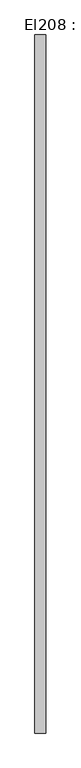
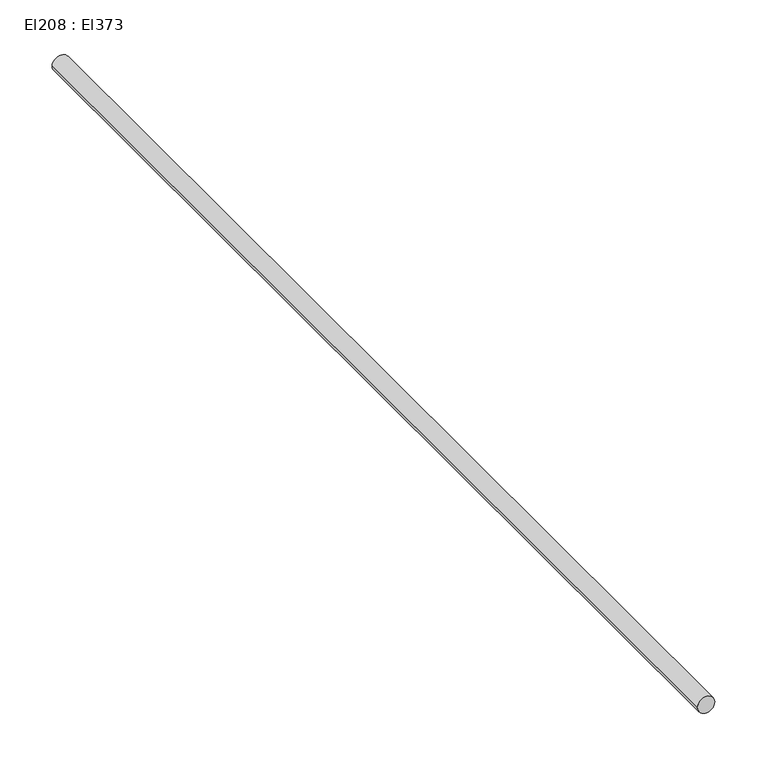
"""IFC4 building model written with IfcOpenShell, lengths in millimetres: cable carrier segment geometry, El208 : El373."""

import ifcopenshell
import ifcopenshell.guid

model = None  # the IFC model being written
_history = None  # IfcOwnerHistory: only IFC2X3 demands one
_inside = {}  # id of a spatial element -> (the spatial element, [elements in it])
_under = {}  # id of a project, library or spatial element -> (it, [spatial elements below it])
_declared = {}  # id of a project -> (the project, [libraries it declares])
_typed = {}  # id of a type object -> (the type object, [elements of that type])
_made_of = {}  # id of a material, layer set ... -> (it, [elements and type objects made of it])


def new_model(schema):
    """Start an empty IFC model of exactly this schema.

    Asked for "IFC4X3", IfcOpenShell would pick the latest addendum, in which some entities
    have other attributes; the version numbers below select the first issue.
    IFC2X3 requires an IfcOwnerHistory on every rooted entity: one is made here for all.
    """
    global model, _history
    if schema == "IFC4X3":
        model = ifcopenshell.file(schema_version=(4, 3, 0, 0))
    else:
        model = ifcopenshell.file(schema=schema)
    _inside.clear()
    _under.clear()
    _declared.clear()
    _typed.clear()
    _made_of.clear()
    _history = None
    if model.schema == "IFC2X3":
        org = make("IfcOrganization", Name="unknown")
        user = make(
            "IfcPersonAndOrganization",
            ThePerson=make("IfcPerson", FamilyName="unknown"),
            TheOrganization=org,
        )
        app = make(
            "IfcApplication",
            ApplicationDeveloper=org,
            Version="unknown",
            ApplicationFullName="unknown",
            ApplicationIdentifier="unknown",
        )
        _history = make(
            "IfcOwnerHistory",
            OwningUser=user,
            OwningApplication=app,
            ChangeAction="ADDED",
            CreationDate=0,
        )
    return model


def make(cls, **values):
    """One entity of the class cls with the attributes given. An attribute that is None is left unset."""
    return model.create_entity(
        cls, **{name: value for name, value in values.items() if value is not None}
    )


def rooted(cls, **values):
    """An entity with a GlobalId (a new one), such as an element, a storey or a relation."""
    return make(cls, GlobalId=ifcopenshell.guid.new(), OwnerHistory=_history, **values)


def si_unit(unit_type, name, prefix=None):
    """IfcSIUnit, for example si_unit("LENGTHUNIT", "METRE", prefix="MILLI")."""
    return make("IfcSIUnit", UnitType=unit_type, Prefix=prefix, Name=name)


def assignment(units):
    """IfcUnitAssignment: the units of a project."""
    return None if units is None else make("IfcUnitAssignment", Units=units)


def point(xyz):
    """IfcCartesianPoint."""
    return None if xyz is None else make("IfcCartesianPoint", Coordinates=xyz)


def direction(xyz):
    """IfcDirection."""
    return None if xyz is None else make("IfcDirection", DirectionRatios=xyz)


def frame(location, z_axis=None, x_axis=None):
    """IfcAxis2Placement3D, a coordinate frame: its origin and axes. An axis left out is left unset."""
    return make(
        "IfcAxis2Placement3D",
        Location=point(location),
        Axis=direction(z_axis),
        RefDirection=direction(x_axis),
    )


def frame_2d(location, x_axis=None):
    """IfcAxis2Placement2D, a coordinate frame in the plane: its origin and x axis."""
    return make(
        "IfcAxis2Placement2D", Location=point(location), RefDirection=direction(x_axis)
    )


def origin():
    """The frame at (0, 0, 0) with its axes left unset."""
    return frame((0.0, 0.0, 0.0))


def place(relative_to, where):
    """IfcLocalPlacement: puts the frame where relative to a parent placement (None: the world)."""
    return make(
        "IfcLocalPlacement", PlacementRelTo=relative_to, RelativePlacement=where
    )


def context(
    kind, dimensions, precision=None, world=None, true_north=None, identifier=None
):
    """IfcGeometricRepresentationContext, for example the 3D "Model" context."""
    return make(
        "IfcGeometricRepresentationContext",
        ContextIdentifier=identifier,
        ContextType=kind,
        CoordinateSpaceDimension=dimensions,
        Precision=precision,
        WorldCoordinateSystem=world,
        TrueNorth=true_north,
    )


def project(units=None, contexts=None):
    """IfcProject with its units and contexts."""
    return rooted(
        "IfcProject",
        Name="project",
        RepresentationContexts=contexts,
        UnitsInContext=assignment(units),
    )


def spatial(cls, under=None, at=None, **own):
    """A site, building, storey or space (cls), placed at a placement, below another one or the project."""
    s = rooted(cls, ObjectPlacement=at, **own)
    if under is not None:
        _under.setdefault(under.id(), (under, []))[1].append(s)
    return s


def circle_curve(where, radius):
    """IfcCircle in the frame where."""
    return make("IfcCircle", Position=where, Radius=radius)


def trimmed(basis, trim1, trim2, sense, master):
    """IfcTrimmedCurve: the piece of a basis curve between two trims."""
    return make(
        "IfcTrimmedCurve",
        BasisCurve=basis,
        Trim1=trim1,
        Trim2=trim2,
        SenseAgreement=sense,
        MasterRepresentation=master,
    )


def segment(curve, same_sense, transition):
    """IfcCompositeCurveSegment."""
    return make(
        "IfcCompositeCurveSegment",
        Transition=transition,
        SameSense=same_sense,
        ParentCurve=curve,
    )


def composite_curve(segments, self_intersect=None):
    """IfcCompositeCurve: segments joined end to end."""
    return make("IfcCompositeCurve", Segments=segments, SelfIntersect=self_intersect)


def outline(outer, holes=None, kind="AREA"):
    """IfcArbitraryClosedProfileDef: a profile drawn as a closed curve; with holes, ...WithVoids."""
    if holes is None:
        return make("IfcArbitraryClosedProfileDef", ProfileType=kind, OuterCurve=outer)
    return make(
        "IfcArbitraryProfileDefWithVoids",
        ProfileType=kind,
        OuterCurve=outer,
        InnerCurves=holes,
    )


def extrude(swept, where, along, depth):
    """IfcExtrudedAreaSolid: the profile swept, set in the frame where, extruded along a direction by depth."""
    return make(
        "IfcExtrudedAreaSolid",
        SweptArea=swept,
        Position=where,
        ExtrudedDirection=direction(along),
        Depth=depth,
    )


def shape(context_of_items, identifier, shape_type, items):
    """IfcShapeRepresentation: the items that make up one representation, for example the "Body"."""
    return make(
        "IfcShapeRepresentation",
        ContextOfItems=context_of_items,
        RepresentationIdentifier=identifier,
        RepresentationType=shape_type,
        Items=items,
    )


def source(mapping_origin, context_of_items, identifier, shape_type, items):
    """IfcRepresentationMap: a shape defined once, which mapped items show again and again."""
    return make(
        "IfcRepresentationMap",
        MappingOrigin=mapping_origin,
        MappedRepresentation=shape(context_of_items, identifier, shape_type, items),
    )


def transform(
    local_origin,
    x_axis=None,
    y_axis=None,
    z_axis=None,
    scale=None,
    scale2=None,
    scale3=None,
    uniform=True,
):
    """IfcCartesianTransformationOperator3D, or its non-uniform kind. x_axis, y_axis, z_axis: its Axis1, 2, 3."""
    if uniform:
        return make(
            "IfcCartesianTransformationOperator3D",
            Axis1=direction(x_axis),
            Axis2=direction(y_axis),
            LocalOrigin=point(local_origin),
            Scale=scale,
            Axis3=direction(z_axis),
        )
    return make(
        "IfcCartesianTransformationOperator3DnonUniform",
        Axis1=direction(x_axis),
        Axis2=direction(y_axis),
        LocalOrigin=point(local_origin),
        Scale=scale,
        Axis3=direction(z_axis),
        Scale2=scale2,
        Scale3=scale3,
    )


def mapped(mapping_source, mapping_target):
    """IfcMappedItem: shows the shape of a source again, moved by a transform."""
    return make(
        "IfcMappedItem", MappingSource=mapping_source, MappingTarget=mapping_target
    )


def made_of(thing, what):
    """Note that an element or type object is made of a material, layer set ...; save() writes the relation."""
    if what is not None:
        _made_of.setdefault(what.id(), (what, []))[1].append(thing)
    return thing


def element(
    cls,
    number,
    at=None,
    inside=None,
    cuts=None,
    type_object=None,
    material=None,
    context=None,
    identifier="Body",
    shape_type=None,
    held_by="IfcProductDefinitionShape",
    body=None,
    shapes=None,
    **own,
):
    """One element of the class cls, such as IfcWall. Its Tag is "e" and its number.

    at: its placement. inside: the storey or other place that contains it. cuts: it is an
    opening in that element (IfcRelVoidsElement). A single representation is given by context,
    identifier, shape_type and body (its items); several are given by shapes. held_by: the class
    of the entity that holds the representations. save() writes the other relations.
    """
    e = rooted(cls, Tag="e%d" % number, ObjectPlacement=at, **own)
    if body is not None:
        shapes = [shape(context, identifier, shape_type, body)]
    if shapes is not None:
        e.Representation = make(held_by, Representations=shapes)
    if inside is not None:
        _inside.setdefault(inside.id(), (inside, []))[1].append(e)
    if cuts is not None:
        rooted(
            "IfcRelVoidsElement", RelatingBuildingElement=cuts, RelatedOpeningElement=e
        )
    if type_object is not None:
        _typed.setdefault(type_object.id(), (type_object, []))[1].append(e)
    return made_of(e, material)


def aggregate(whole, parts):
    """IfcRelAggregates: a whole, such as a stair, and the parts it consists of."""
    return rooted("IfcRelAggregates", RelatingObject=whole, RelatedObjects=parts)


def save(model, path):
    """Write the relations noted so far, then the file.

    IfcRelAggregates (storeys below a building ...), IfcRelContainedInSpatialStructure (elements
    in a storey), IfcRelDefinesByType, IfcRelAssociatesMaterial and IfcRelDeclares: one each for
    every whole, place, type object, material and project.
    """
    for whole, parts in _under.values():
        aggregate(whole, parts)
    for where, things in _inside.values():
        rooted(
            "IfcRelContainedInSpatialStructure",
            RelatedElements=things,
            RelatingStructure=where,
        )
    for kind, things in _typed.values():
        rooted("IfcRelDefinesByType", RelatedObjects=things, RelatingType=kind)
    for what, things in _made_of.values():
        rooted("IfcRelAssociatesMaterial", RelatedObjects=things, RelatingMaterial=what)
    for by, libraries in _declared.values():
        rooted("IfcRelDeclares", RelatingContext=by, RelatedDefinitions=libraries)
    model.write(path)


def el208_el373_a7051450(model_context):
    return source(origin(), model_context, "Body", "SweptSolid", [
        extrude(outline(composite_curve([segment(trimmed(circle_curve(frame_2d((1800.0, 5414.4746511)), 9.5), [point((1800.0, 5404.9746511))], [point((1800.0, 5423.9746511))], False, "CARTESIAN"), True, "CONTINUOUS"), segment(trimmed(circle_curve(frame_2d((1800.0, 5414.4746511)), 9.5), [point((1800.0, 5423.9746511))], [point((1800.0, 5404.9746511))], False, "CARTESIAN"), True, "CONTINUOUS")], self_intersect=False)), frame((0.0, 8957.5021745, 0.0), z_axis=(0.0, 1.0, 0.0), x_axis=(0.0, 0.0, 1.0)), (0.0, 0.0, 1.0), 1234.62),
    ])


if __name__ == "__main__":
    model = new_model("IFC4")
    model_context = context("Model", 3, world=origin())
    ifc_project = project(units=[si_unit("LENGTHUNIT", "METRE", prefix="MILLI")], contexts=[model_context])
    site = spatial("IfcSite", under=ifc_project)
    building = spatial("IfcBuilding", under=site)
    placement = place(None, origin())
    el208_el373_shape = el208_el373_a7051450(model_context)
    element("IfcCableCarrierSegment", 1, ObjectType="El208 : El373", at=placement, inside=building, context=model_context, shape_type="MappedRepresentation", body=[
        mapped(el208_el373_shape, transform((0.0, 0.0, 0.0), x_axis=(1.0, 0.0, 0.0), y_axis=(0.0, 1.0, 0.0), z_axis=(0.0, 0.0, 1.0))),
    ])
    save(model, "model.ifc")
